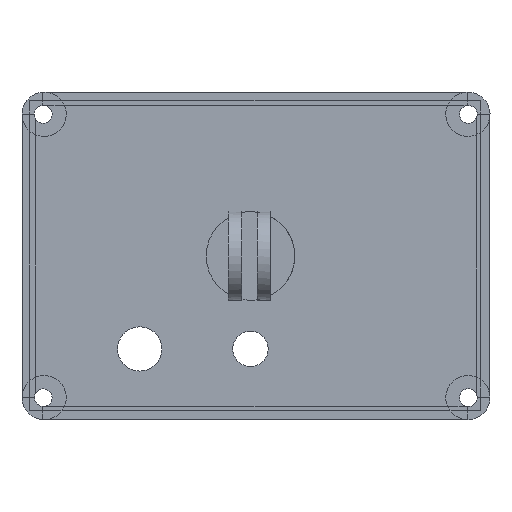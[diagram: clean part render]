
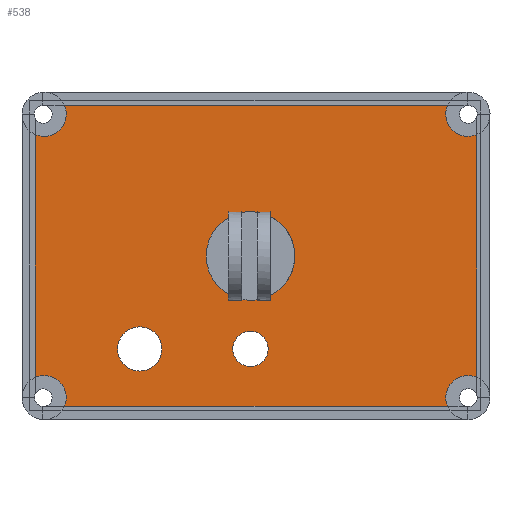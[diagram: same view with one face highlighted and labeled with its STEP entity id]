
A CAD part, front view. The second image highlights one B-rep face of the part: STEP entity #538.
In plain terms, the highlighted planar face has unit normal (0, -1, 0).
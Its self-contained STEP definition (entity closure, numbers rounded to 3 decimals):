
#124 = VERTEX_POINT('',#125);
#125 = CARTESIAN_POINT('',(17.,-34.,-6.));
#131 = EDGE_CURVE('',#124,#124,#132,.T.);
#132 = CIRCLE('',#133,10.);
#133 = AXIS2_PLACEMENT_3D('',#134,#135,#136);
#134 = CARTESIAN_POINT('',(17.,-34.,4.));
#135 = DIRECTION('',(0.,1.,0.));
#136 = DIRECTION('',(0.,0.,-1.));
#538 = ADVANCED_FACE('',(#539,#627,#638,#649),#652,.F.);
#539 = FACE_BOUND('',#540,.F.);
#540 = EDGE_LOOP('',(#541,#551,#560,#568,#577,#585,#594,#603,#611,#620)
  );
#541 = ORIENTED_EDGE('',*,*,#542,.F.);
#542 = EDGE_CURVE('',#543,#545,#547,.T.);
#543 = VERTEX_POINT('',#544);
#544 = CARTESIAN_POINT('',(68.05,-34.,-23.396));
#545 = VERTEX_POINT('',#546);
#546 = CARTESIAN_POINT('',(68.05,-34.,31.396));
#547 = LINE('',#548,#549);
#548 = CARTESIAN_POINT('',(68.05,-34.,-27.95));
#549 = VECTOR('',#550,1.);
#550 = DIRECTION('',(0.,0.,1.));
#551 = ORIENTED_EDGE('',*,*,#552,.F.);
#552 = EDGE_CURVE('',#553,#543,#555,.T.);
#553 = VERTEX_POINT('',#554);
#554 = CARTESIAN_POINT('',(61.496,-34.,-29.95));
#555 = CIRCLE('',#556,5.);
#556 = AXIS2_PLACEMENT_3D('',#557,#558,#559);
#557 = CARTESIAN_POINT('',(66.1,-34.,-28.));
#558 = DIRECTION('',(0.,1.,0.));
#559 = DIRECTION('',(0.,0.,-1.));
#560 = ORIENTED_EDGE('',*,*,#561,.F.);
#561 = EDGE_CURVE('',#562,#553,#564,.T.);
#562 = VERTEX_POINT('',#563);
#563 = CARTESIAN_POINT('',(-24.996,-34.,-29.95));
#564 = LINE('',#565,#566);
#565 = CARTESIAN_POINT('',(-30.,-34.,-29.95));
#566 = VECTOR('',#567,1.);
#567 = DIRECTION('',(1.,0.,0.));
#568 = ORIENTED_EDGE('',*,*,#569,.F.);
#569 = EDGE_CURVE('',#570,#562,#572,.T.);
#570 = VERTEX_POINT('',#571);
#571 = CARTESIAN_POINT('',(-31.6,-34.,-23.417));
#572 = CIRCLE('',#573,5.);
#573 = AXIS2_PLACEMENT_3D('',#574,#575,#576);
#574 = CARTESIAN_POINT('',(-29.6,-34.,-28.));
#575 = DIRECTION('',(0.,1.,0.));
#576 = DIRECTION('',(0.,0.,-1.));
#577 = ORIENTED_EDGE('',*,*,#578,.T.);
#578 = EDGE_CURVE('',#570,#579,#581,.T.);
#579 = VERTEX_POINT('',#580);
#580 = CARTESIAN_POINT('',(-31.6,-34.,31.417));
#581 = LINE('',#582,#583);
#582 = CARTESIAN_POINT('',(-31.6,-34.,-27.95));
#583 = VECTOR('',#584,1.);
#584 = DIRECTION('',(0.,0.,1.));
#585 = ORIENTED_EDGE('',*,*,#586,.F.);
#586 = EDGE_CURVE('',#587,#579,#589,.T.);
#587 = VERTEX_POINT('',#588);
#588 = CARTESIAN_POINT('',(-29.6,-34.,31.));
#589 = CIRCLE('',#590,5.);
#590 = AXIS2_PLACEMENT_3D('',#591,#592,#593);
#591 = CARTESIAN_POINT('',(-29.6,-34.,36.));
#592 = DIRECTION('',(0.,1.,0.));
#593 = DIRECTION('',(0.,0.,-1.));
#594 = ORIENTED_EDGE('',*,*,#595,.F.);
#595 = EDGE_CURVE('',#596,#587,#598,.T.);
#596 = VERTEX_POINT('',#597);
#597 = CARTESIAN_POINT('',(-25.009,-34.,37.98));
#598 = CIRCLE('',#599,5.);
#599 = AXIS2_PLACEMENT_3D('',#600,#601,#602);
#600 = CARTESIAN_POINT('',(-29.6,-34.,36.));
#601 = DIRECTION('',(0.,1.,0.));
#602 = DIRECTION('',(0.,0.,-1.));
#603 = ORIENTED_EDGE('',*,*,#604,.T.);
#604 = EDGE_CURVE('',#596,#605,#607,.T.);
#605 = VERTEX_POINT('',#606);
#606 = CARTESIAN_POINT('',(61.509,-34.,37.98));
#607 = LINE('',#608,#609);
#608 = CARTESIAN_POINT('',(-30.,-34.,37.98));
#609 = VECTOR('',#610,1.);
#610 = DIRECTION('',(1.,0.,0.));
#611 = ORIENTED_EDGE('',*,*,#612,.F.);
#612 = EDGE_CURVE('',#613,#605,#615,.T.);
#613 = VERTEX_POINT('',#614);
#614 = CARTESIAN_POINT('',(66.1,-34.,31.));
#615 = CIRCLE('',#616,5.);
#616 = AXIS2_PLACEMENT_3D('',#617,#618,#619);
#617 = CARTESIAN_POINT('',(66.1,-34.,36.));
#618 = DIRECTION('',(0.,1.,0.));
#619 = DIRECTION('',(0.,0.,-1.));
#620 = ORIENTED_EDGE('',*,*,#621,.F.);
#621 = EDGE_CURVE('',#545,#613,#622,.T.);
#622 = CIRCLE('',#623,5.);
#623 = AXIS2_PLACEMENT_3D('',#624,#625,#626);
#624 = CARTESIAN_POINT('',(66.1,-34.,36.));
#625 = DIRECTION('',(0.,1.,0.));
#626 = DIRECTION('',(0.,0.,-1.));
#627 = FACE_BOUND('',#628,.F.);
#628 = EDGE_LOOP('',(#629));
#629 = ORIENTED_EDGE('',*,*,#630,.F.);
#630 = EDGE_CURVE('',#631,#631,#633,.T.);
#631 = VERTEX_POINT('',#632);
#632 = CARTESIAN_POINT('',(-8.,-34.,-22.));
#633 = CIRCLE('',#634,5.);
#634 = AXIS2_PLACEMENT_3D('',#635,#636,#637);
#635 = CARTESIAN_POINT('',(-8.,-34.,-17.));
#636 = DIRECTION('',(0.,1.,0.));
#637 = DIRECTION('',(0.,0.,-1.));
#638 = FACE_BOUND('',#639,.F.);
#639 = EDGE_LOOP('',(#640));
#640 = ORIENTED_EDGE('',*,*,#641,.F.);
#641 = EDGE_CURVE('',#642,#642,#644,.T.);
#642 = VERTEX_POINT('',#643);
#643 = CARTESIAN_POINT('',(17.,-34.,-21.));
#644 = CIRCLE('',#645,4.);
#645 = AXIS2_PLACEMENT_3D('',#646,#647,#648);
#646 = CARTESIAN_POINT('',(17.,-34.,-17.));
#647 = DIRECTION('',(0.,1.,0.));
#648 = DIRECTION('',(0.,0.,-1.));
#649 = FACE_BOUND('',#650,.F.);
#650 = EDGE_LOOP('',(#651));
#651 = ORIENTED_EDGE('',*,*,#131,.F.);
#652 = PLANE('',#653);
#653 = AXIS2_PLACEMENT_3D('',#654,#655,#656);
#654 = CARTESIAN_POINT('',(-33.,-34.,-30.95));
#655 = DIRECTION('',(0.,1.,0.));
#656 = DIRECTION('',(0.,0.,1.));
